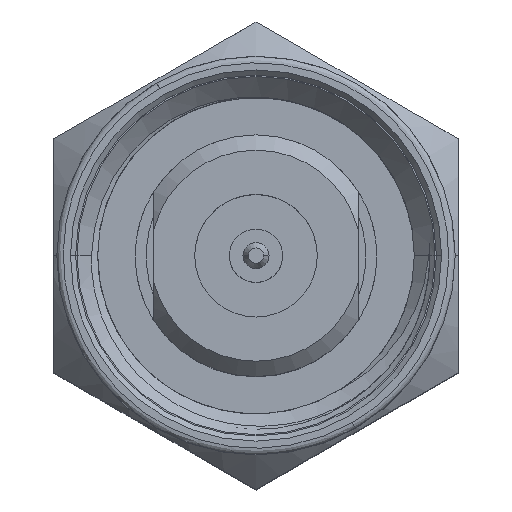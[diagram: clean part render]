
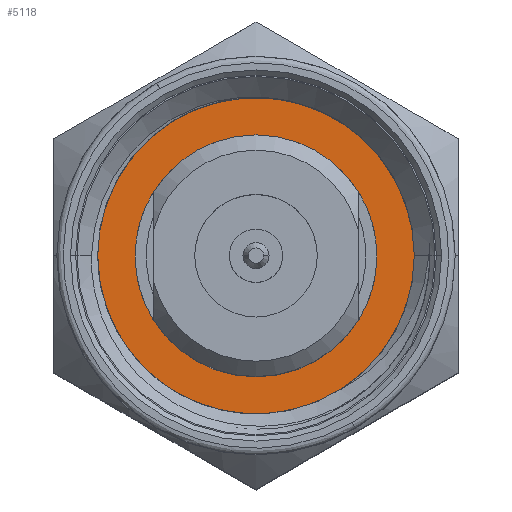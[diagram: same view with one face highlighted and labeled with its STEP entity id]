
A CAD part, top view. The second image highlights one B-rep face of the part: STEP entity #5118.
In plain terms, the highlighted planar face has unit normal (0, 0, 1).
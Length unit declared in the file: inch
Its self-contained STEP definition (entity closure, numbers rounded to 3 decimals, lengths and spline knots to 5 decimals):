
#86 = AXIS2_PLACEMENT_3D ( 'NONE', #9475, #12297, #3554 ) ;
#199 = CARTESIAN_POINT ( 'NONE',  ( 0., 0., 0.13071 ) ) ;
#408 = DIRECTION ( 'NONE',  ( 1., 0., 0. ) ) ;
#460 = CARTESIAN_POINT ( 'NONE',  ( -0.125, 0., 0.13071 ) ) ;
#1635 = EDGE_LOOP ( 'NONE', ( #9179, #6587 ) ) ;
#1968 = VERTEX_POINT ( 'NONE', #2578 ) ;
#2261 = DIRECTION ( 'NONE',  ( 0., 0., -1. ) ) ;
#2479 = AXIS2_PLACEMENT_3D ( 'NONE', #199, #2261, #8949 ) ;
#2578 = CARTESIAN_POINT ( 'NONE',  ( 0.09311, 0., 0.13071 ) ) ;
#2798 = EDGE_CURVE ( 'NONE', #7419, #8293, #4089, .T. ) ;
#3554 = DIRECTION ( 'NONE',  ( 1., 0., 0. ) ) ;
#3723 = AXIS2_PLACEMENT_3D ( 'NONE', #11957, #4276, #9137 ) ;
#3758 = EDGE_CURVE ( 'NONE', #1968, #8956, #10150, .T. ) ;
#4089 = CIRCLE ( 'NONE', #2479, 0.125 ) ;
#4276 = DIRECTION ( 'NONE',  ( 0., 0., -1. ) ) ;
#4598 = EDGE_LOOP ( 'NONE', ( #5171, #7412 ) ) ;
#4877 = CARTESIAN_POINT ( 'NONE',  ( 0., 0., 0.13071 ) ) ;
#5118 = ADVANCED_FACE ( 'NONE', ( #7252, #8950 ), #10837, .F. ) ;
#5129 = DIRECTION ( 'NONE',  ( 0., 0., -1. ) ) ;
#5171 = ORIENTED_EDGE ( 'NONE', *, *, #2798, .F. ) ;
#5346 = AXIS2_PLACEMENT_3D ( 'NONE', #11854, #5129, #408 ) ;
#6342 = AXIS2_PLACEMENT_3D ( 'NONE', #4877, #8035, #10912 ) ;
#6587 = ORIENTED_EDGE ( 'NONE', *, *, #7154, .F. ) ;
#7154 = EDGE_CURVE ( 'NONE', #8956, #1968, #9563, .T. ) ;
#7223 = EDGE_CURVE ( 'NONE', #8293, #7419, #12165, .T. ) ;
#7252 = FACE_OUTER_BOUND ( 'NONE', #4598, .T. ) ;
#7399 = CARTESIAN_POINT ( 'NONE',  ( 0.125, 0., 0.13071 ) ) ;
#7412 = ORIENTED_EDGE ( 'NONE', *, *, #7223, .F. ) ;
#7419 = VERTEX_POINT ( 'NONE', #7399 ) ;
#8035 = DIRECTION ( 'NONE',  ( 0., 0., 1. ) ) ;
#8293 = VERTEX_POINT ( 'NONE', #460 ) ;
#8949 = DIRECTION ( 'NONE',  ( 1., 0., 0. ) ) ;
#8950 = FACE_BOUND ( 'NONE', #1635, .T. ) ;
#8956 = VERTEX_POINT ( 'NONE', #10118 ) ;
#9137 = DIRECTION ( 'NONE',  ( -1., 0., 0. ) ) ;
#9179 = ORIENTED_EDGE ( 'NONE', *, *, #3758, .F. ) ;
#9475 = CARTESIAN_POINT ( 'NONE',  ( 0., 0., 0.13071 ) ) ;
#9563 = CIRCLE ( 'NONE', #6342, 0.09311 ) ;
#10118 = CARTESIAN_POINT ( 'NONE',  ( -0.09311, 0., 0.13071 ) ) ;
#10150 = CIRCLE ( 'NONE', #86, 0.09311 ) ;
#10837 = PLANE ( 'NONE',  #3723 ) ;
#10912 = DIRECTION ( 'NONE',  ( 1., 0., 0. ) ) ;
#11854 = CARTESIAN_POINT ( 'NONE',  ( 0., 0., 0.13071 ) ) ;
#11957 = CARTESIAN_POINT ( 'NONE',  ( 0.09311, 0., 0.13071 ) ) ;
#12165 = CIRCLE ( 'NONE', #5346, 0.125 ) ;
#12297 = DIRECTION ( 'NONE',  ( 0., 0., 1. ) ) ;
